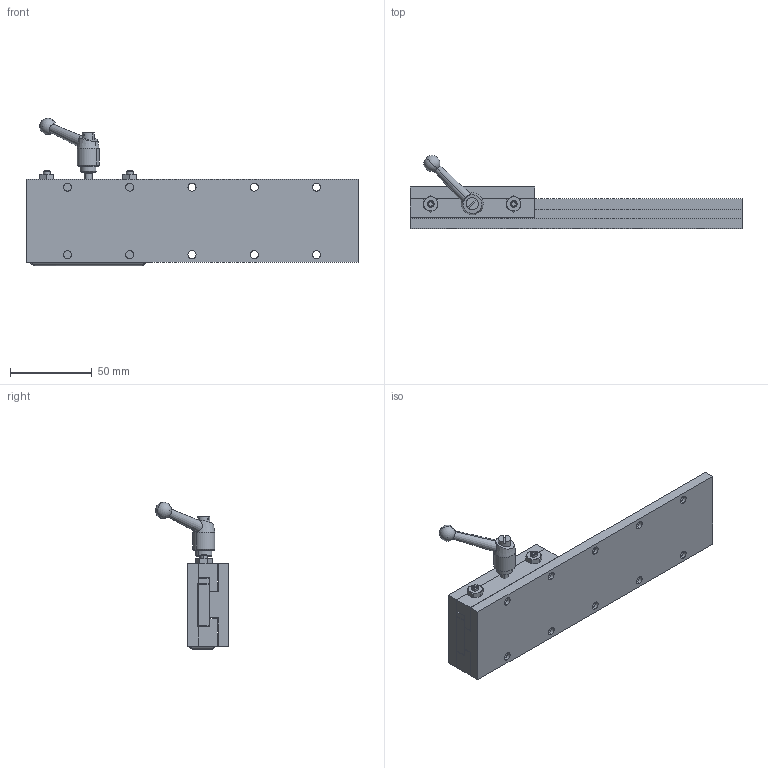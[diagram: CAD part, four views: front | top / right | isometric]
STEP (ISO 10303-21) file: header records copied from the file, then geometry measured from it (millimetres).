
FILE_DESCRIPTION (( 'STEP AP214' ), '1' );
FILE_NAME ('SW02-SL03-BL08-LH.STEP', '2011-06-16T19:20:30', ( '' ), ( '' ), 'SwSTEP 2.0', 'SolidWorks 2011', '' );
FILE_SCHEMA (( 'AUTOMOTIVE_DESIGN' ));
Length unit declared in the file: inch
Products named in the file (13): KHB_52; _MSHXNUT_MSHXNUT 0.164-32-D-N; _SSCUPSOC_SSCUPSKT 0.164-32x0.625-HX-N; Tag; Gen2 Bar_02x03 BAR; Gen2 Adj Gib_02x03 ADJ GIB; Gen2 Gib_02x03 GIB; Gen2 Top plate_02x03 TPLATE; Gen2 BASE_02x08 BASE; Gen2 Hardplate_02x08 HPLATE; Gen2 Baseplate_02x08 BASE; SW02-SL03-BL08-LH; Gen2 SADDLE_02x03 SADDLE with LOCK HANDLES
Assembly tree (14 placements, depth 3):
  SW02-SL03-BL08-LH
    Gen2 BASE_02x08 BASE
      Gen2 Hardplate_02x08 HPLATE
      Gen2 Baseplate_02x08 BASE
    Gen2 SADDLE_02x03 SADDLE with LOCK HANDLES
      Gen2 Adj Gib_02x03 ADJ GIB
      Gen2 Bar_02x03 BAR
      KHB_52
      _SSCUPSOC_SSCUPSKT 0.164-32x0.625-HX-N  x2
      _MSHXNUT_MSHXNUT 0.164-32-D-N  x2
      Gen2 Top plate_02x03 TPLATE
      Gen2 Gib_02x03 GIB
      Tag
Bounding box: 203.2 x 44.7 x 90.19 mm (x, y, z)
Volume: 173399.2 mm3; surface area: 75354.3 mm2
Topology: 17 solids, 17 shells, 280 faces, 633 edges, 395 vertices
Faces by surface type: plane 134, cylinder 84, cone 56, bspline 4, sphere 2
Entity records: 8321 total; most frequent: CARTESIAN_POINT 2086, DIRECTION 1166, ORIENTED_EDGE 1052, EDGE_CURVE 526, AXIS2_PLACEMENT_3D 431, VERTEX_POINT 337, LINE 304, VECTOR 304
